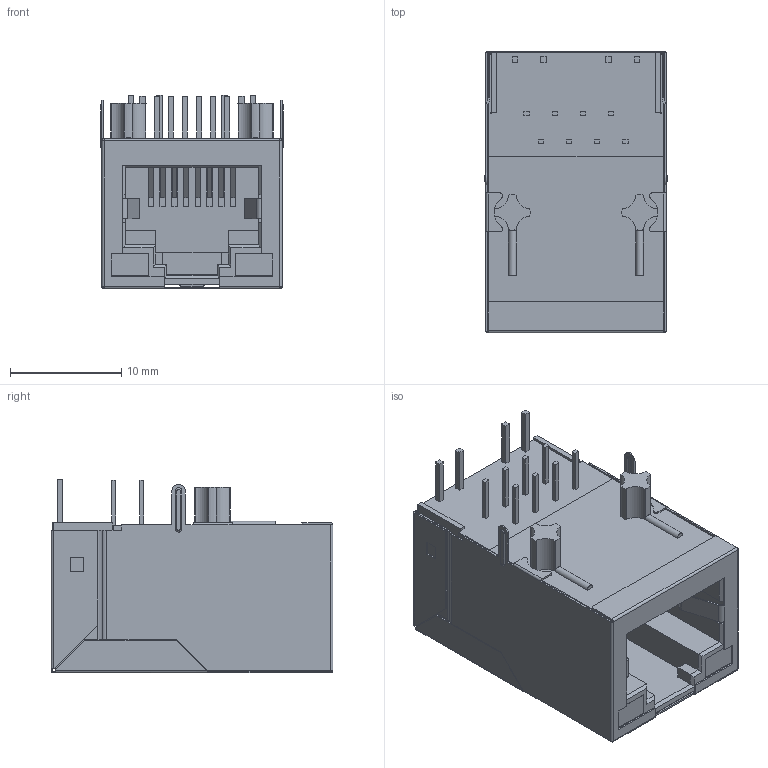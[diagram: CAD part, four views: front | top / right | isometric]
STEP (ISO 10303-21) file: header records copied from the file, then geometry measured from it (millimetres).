
FILE_DESCRIPTION(/* description */ ('Unknown','CAx-IF Rec.Pracs.---Representation and Presentation of Product Manufacturing Information (PMI)---4.0---2014-10-13'),/* implementation_level */ '2;1');
FILE_NAME(/* name */ 'G:\Alle CAD Daten\CAMTEC_2020_Pack and Go\PSU CPS-i3000 - CPS-i2000\74990101212_rev1.stp',/* time_stamp */ '2020-09-20T22:42:40+02:00',/* author */ ('rryba'),/* organization */ ('Unknown'),/* preprocessor_version */ 'ST-DEVELOPER v18.1',/* originating_system */ 'Autodesk Inventor 2021',/* authorisation */ ' ');
FILE_SCHEMA (('AP242_MANAGED_MODEL_BASED_3D_ENGINEERING_MIM_LF { 1 0 10303 442 1 1 4 }'));
Length unit declared in the file: millimetre
Products named in the file (6): 74990101212_rev1; Insulator_3; Insulator_2; Shielding_2; LED; LED_1
Assembly tree (5 placements, depth 2):
  74990101212_rev1
    Insulator_3
    Insulator_2
    Shielding_2
    LED
    LED_1
Bounding box: 16.4 x 25.3 x 17.4 mm (x, y, z)
Volume: 2707 mm3; surface area: 8355.3 mm2
Topology: 5 solids, 5 shells, 895 faces, 2492 edges, 1616 vertices
Faces by surface type: plane 630, cylinder 225, bspline 22, sphere 10, torus 8
Entity records: 30105 total; most frequent: CARTESIAN_POINT 5877, ORIENTED_EDGE 4964, DIRECTION 4782, EDGE_CURVE 2482, LINE 1988, VECTOR 1988, VERTEX_POINT 1616, AXIS2_PLACEMENT_3D 1397
